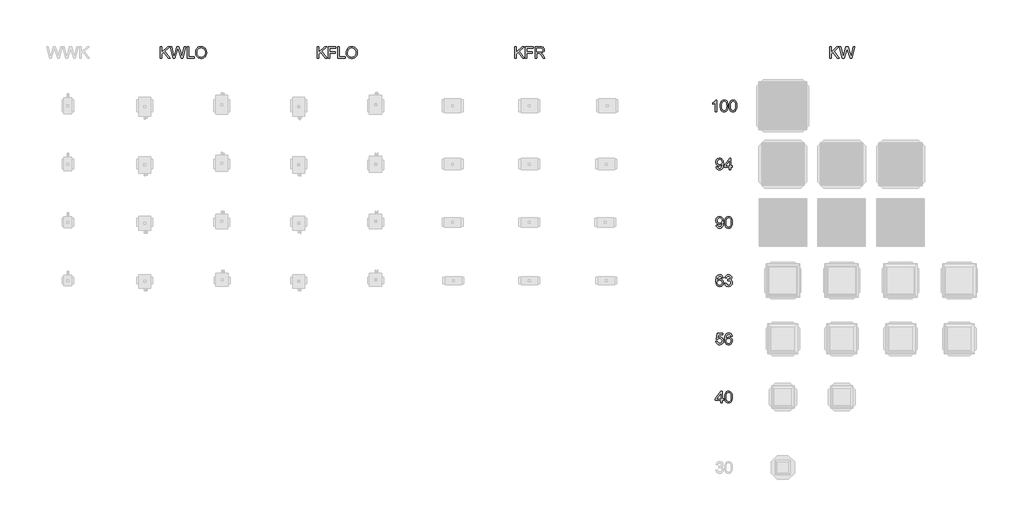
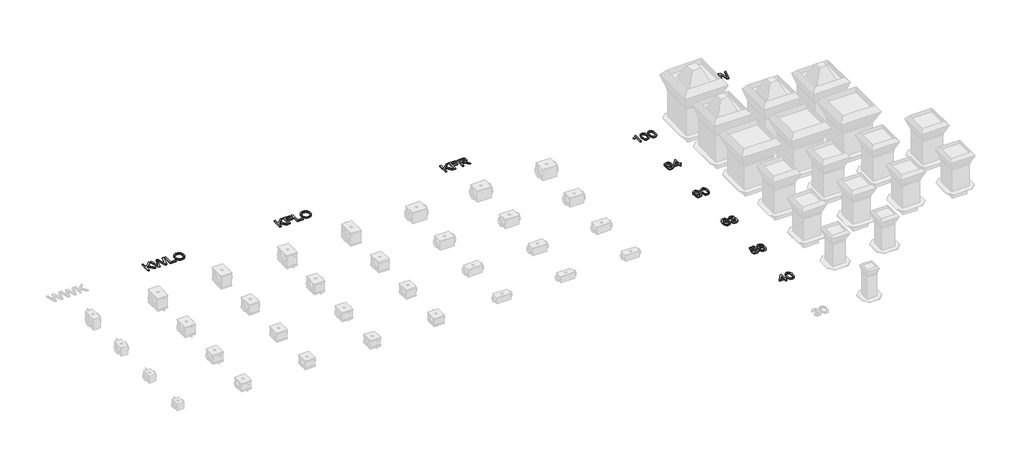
# One storey, part 9 of 9: 10 proxies.
"""IFC4 building model written with IfcOpenShell, lengths in millimetres."""

from ifc_helpers import new_model, si_unit, origin, origin_with_axes, place, context, project, spatial, polyline, outline, extrude, element, save

model = new_model("IFC4")

# Units and contexts
model_context = context("Model", 3, world=origin())
ifc_project = project(units=[si_unit("LENGTHUNIT", "METRE", prefix="MILLI")], contexts=[model_context])

# Site, building, storey
site = spatial("IfcSite", under=ifc_project)
building = spatial("IfcBuilding", under=site)
storey = spatial("IfcBuildingStorey", under=building, Name="KORF_Уровень 1", Elevation=0.0)

# Proxies
placement = place(None, origin())
element("IfcBuildingElementProxy", 1, Name="Текст модели 1", ObjectType="Текст модели 1", at=placement, inside=storey, context=model_context, shape_type="SweptSolid", body=[
    extrude(outline(polyline([(34380.0330848, 9570.718814), (34380.0330848, 9872.0877444), (34417.7042011, 9872.0877444), (34417.7042011, 9724.5670644), (34572.2146391, 9872.0877444), (34624.8953408, 9872.0877444), (34495.1801493, 9748.1850885), (34629.6042304, 9570.718814), (34583.5454046, 9570.718814), (34468.4719165, 9722.7276544), (34417.7042011, 9674.3143838), (34417.7042011, 9570.718814), (34380.0330848, 9570.718814)])), origin_with_axes(), (0.0, 0.0, 1.0), 30.0),
    extrude(outline(polyline([(34711.7890681, 9570.718814), (34629.6042304, 9872.0877444), (34668.4525691, 9872.0877444), (34716.1300756, 9674.0200782), (34730.8453554, 9612.8780906), (34746.5907048, 9666.9567439), (34806.3347409, 9872.0877444), (34862.3263805, 9872.0877444), (34905.7364559, 9723.389842), (34924.3328908, 9668.2075427), (34938.0364951, 9612.8780906), (34952.3103165, 9672.2542447), (35000.4292815, 9872.0877444), (35039.2776202, 9872.0877444), (34957.0192061, 9570.718814), (34916.7729158, 9570.718814), (34844.520892, 9803.2202349), (34834.4409253, 9835.6674269), (34823.1101598, 9796.598359), (34757.2592827, 9570.718814), (34711.7890681, 9570.718814)])), origin_with_axes(), (0.0, 0.0, 1.0), 30.0),
])
element("IfcBuildingElementProxy", 2, Name="Текст модели 1", ObjectType="Текст модели 1", at=placement, inside=storey, context=model_context, shape_type="SweptSolid", body=[
    extrude(outline(polyline([(31450.9638955, 8185.3913478), (31413.2927791, 8185.3913478), (31413.2927791, 8420.2472135), (31377.6082256, 8394.8265676), (31337.9505465, 8375.8070685), (31337.9505465, 8411.4180456), (31367.537456, 8427.5128829), (31393.169634, 8446.6611408), (31413.3755526, 8467.0234092), (31426.6836838, 8486.7602782), (31450.9638955, 8486.7602782), (31450.9638955, 8185.3913478)])), origin_with_axes(), (0.0, 0.0, 1.0), 30.0),
    extrude(outline(polyline([(31540.4327967, 8333.6477918), (31543.2011087, 8381.8863185), (31551.5060447, 8420.3575781), (31565.2648314, 8449.650182), (31584.3946951, 8470.3527412), (31609.0335917, 8482.658394), (31639.319477, 8486.7602782), (31662.5328309, 8484.3322571), (31683.3181636, 8477.0481936), (31700.7005879, 8465.1931963), (31713.7052164, 8449.0523737), (31723.5276657, 8428.7636817), (31731.3635522, 8404.4650759), (31736.495506, 8373.6089736), (31738.2061573, 8333.6477918), (31735.4654364, 8285.6851767), (31727.2432738, 8247.3058876), (31713.5672607, 8217.9856926), (31694.4649881, 8197.2003598), (31669.7709091, 8184.8119336), (31639.319477, 8180.6824582), (31618.5709325, 8182.475883), (31600.1768327, 8187.8561572), (31584.1371777, 8196.8232808), (31570.4519675, 8209.3772539), (31557.3185803, 8232.0709744), (31547.9375894, 8260.3473043), (31542.3089949, 8294.2062434), (31540.4327967, 8333.6477918)]), holes=[polyline([(31578.103913, 8333.7213682), (31582.5184969, 8274.4647759), (31588.0367269, 8254.1967772), (31595.7622488, 8240.1689769), (31615.4807237, 8223.8074251), (31639.319477, 8218.3535746), (31663.1582303, 8223.8258192), (31682.8767052, 8240.2425533), (31690.6022271, 8254.2933462), (31696.120457, 8274.5567464), (31700.535041, 8333.7213682), (31696.2676098, 8391.6443884), (31690.9333209, 8411.8457084), (31683.4653164, 8426.2069018), (31663.7836297, 8443.3685969), (31638.8780186, 8449.0891619), (31615.2967827, 8444.0491786), (31596.3508599, 8428.9292286), (31588.3678206, 8413.2942438), (31582.6656497, 8392.2146055), (31578.103913, 8333.7213682)])]), origin_with_axes(), (0.0, 0.0, 1.0), 30.0),
    extrude(outline(polyline([(31771.1683841, 8333.6477918), (31773.9366961, 8381.8863185), (31782.2416321, 8420.3575781), (31796.0004187, 8449.650182), (31815.1302825, 8470.3527412), (31839.7691791, 8482.658394), (31870.0550644, 8486.7602782), (31893.2684183, 8484.3322571), (31914.053751, 8477.0481936), (31931.4361753, 8465.1931963), (31944.4408038, 8449.0523737), (31954.2632531, 8428.7636817), (31962.0991395, 8404.4650759), (31967.2310934, 8373.6089736), (31968.9417447, 8333.6477918), (31966.2010238, 8285.6851767), (31957.9788612, 8247.3058876), (31944.302848, 8217.9856926), (31925.2005754, 8197.2003598), (31900.5064965, 8184.8119336), (31870.0550644, 8180.6824582), (31849.3065198, 8182.475883), (31830.9124201, 8187.8561572), (31814.8727651, 8196.8232808), (31801.1875549, 8209.3772539), (31788.0541676, 8232.0709744), (31778.6731768, 8260.3473043), (31773.0445822, 8294.2062434), (31771.1683841, 8333.6477918)]), holes=[polyline([(31808.8395004, 8333.7213682), (31813.2540843, 8274.4647759), (31818.7723142, 8254.1967772), (31826.4978361, 8240.1689769), (31846.2163111, 8223.8074251), (31870.0550644, 8218.3535746), (31893.8938176, 8223.8258192), (31913.6122926, 8240.2425533), (31921.3378145, 8254.2933462), (31926.8560444, 8274.5567464), (31931.2706284, 8333.7213682), (31927.0031972, 8391.6443884), (31921.6689083, 8411.8457084), (31914.2009038, 8426.2069018), (31894.519217, 8443.3685969), (31869.613606, 8449.0891619), (31846.0323701, 8444.0491786), (31827.0864473, 8428.9292286), (31819.103408, 8413.2942438), (31813.4012371, 8392.2146055), (31808.8395004, 8333.7213682)])]), origin_with_axes(), (0.0, 0.0, 1.0), 30.0),
])
element("IfcBuildingElementProxy", 3, Name="Текст модели 1", ObjectType="Текст модели 1", at=placement, inside=storey, context=model_context, shape_type="SweptSolid", body=[
    extrude(outline(polyline([(31429.7738925, 6746.7527729), (31467.4450088, 6751.4616624), (31473.8829438, 6730.0785215), (31484.3675806, 6715.5195915), (31498.641402, 6707.1594732), (31516.4468906, 6704.3727671), (31532.4221662, 6706.1661918), (31546.944308, 6711.546466), (31559.0108374, 6719.9249784), (31567.6192761, 6730.7131179), (31579.943323, 6763.4546155), (31585.3879765, 6807.1589965), (31585.1672473, 6814.5166364), (31572.1166335, 6798.587346), (31555.0377119, 6785.9689936), (31535.1628871, 6777.746831), (31513.7245638, 6775.0061101), (31495.829404, 6776.6799732), (31479.3735825, 6781.7015624), (31464.3570993, 6790.0708778), (31450.7799545, 6801.7879194), (31439.5296632, 6816.2410833), (31431.4937409, 6832.8187657), (31426.6721875, 6851.5209666), (31425.065003, 6872.347686), (31426.7503624, 6893.8687828), (31431.8064406, 6913.1825875), (31440.2332375, 6930.2891003), (31452.0307532, 6945.1883211), (31466.3666547, 6957.2594491), (31482.408609, 6965.8816833), (31500.156616, 6971.0550239), (31519.6106758, 6972.7794707), (31547.7076631, 6968.8431334), (31573.2846588, 6957.0341213), (31594.6769969, 6937.9410458), (31610.2200112, 6912.1525179), (31619.6837755, 6876.5047526), (31622.8383636, 6827.8339646), (31619.6929725, 6776.2293178), (31610.2567994, 6736.3417124), (31594.6126175, 6706.3685269), (31572.8432005, 6684.5071393), (31545.8866473, 6671.1530229), (31514.681057, 6666.7016507), (31482.4729883, 6671.9531662), (31456.776431, 6687.7077127), (31438.8053955, 6712.9720087), (31429.7738925, 6746.7527729)]), holes=[polyline([(31585.1672473, 6873.2306028), (31581.1021512, 6898.7616133), (31568.9068631, 6918.4065118), (31549.9793345, 6930.9328938), (31525.7175169, 6935.1083544), (31500.5543884, 6930.610997), (31480.3944551, 6917.1189249), (31467.1507032, 6896.4715479), (31462.7361193, 6870.5082761), (31466.9115799, 6847.2305428), (31479.4379619, 6828.7536696), (31499.1012545, 6816.6963372), (31524.6874473, 6812.6772264), (31548.7561268, 6816.6963372), (31568.1343109, 6828.7536696), (31580.9090132, 6847.9111245), (31585.1672473, 6873.2306028)])]), origin_with_axes(), (0.0, 0.0, 1.0), 30.0),
    extrude(outline(polyline([(31778.2317184, 6671.4105403), (31778.2317184, 6742.0438834), (31641.6739218, 6742.0438834), (31641.6739218, 6779.7149997), (31787.6494974, 6968.0705812), (31815.9028347, 6968.0705812), (31815.9028347, 6779.7149997), (31853.573951, 6779.7149997), (31853.573951, 6742.0438834), (31815.9028347, 6742.0438834), (31815.9028347, 6671.4105403), (31778.2317184, 6671.4105403)]), holes=[polyline([(31778.2317184, 6779.7149997), (31778.2317184, 6896.1128629), (31688.0270531, 6779.7149997), (31778.2317184, 6779.7149997)])]), origin_with_axes(), (0.0, 0.0, 1.0), 30.0),
])
element("IfcBuildingElementProxy", 4, Name="Текст модели 1", ObjectType="Текст модели 1", at=placement, inside=storey, context=model_context, shape_type="SweptSolid", body=[
    extrude(outline(polyline([(31429.7738925, 5232.7719654), (31467.4450088, 5237.4808549), (31473.8829438, 5216.097714), (31484.3675806, 5201.538784), (31498.641402, 5193.1786657), (31516.4468906, 5190.3919596), (31532.4221662, 5192.1853843), (31546.944308, 5197.5656585), (31559.0108374, 5205.9441709), (31567.6192761, 5216.7323104), (31579.943323, 5249.473808), (31585.3879765, 5293.178189), (31585.1672473, 5300.5358289), (31572.1166335, 5284.6065385), (31555.0377119, 5271.9881861), (31535.1628871, 5263.7660235), (31513.7245638, 5261.0253026), (31495.829404, 5262.6991657), (31479.3735825, 5267.7207549), (31464.3570993, 5276.0900703), (31450.7799545, 5287.8071119), (31439.5296632, 5302.2602758), (31431.4937409, 5318.8379582), (31426.6721875, 5337.5401591), (31425.065003, 5358.3668785), (31426.7503624, 5379.8879753), (31431.8064406, 5399.20178), (31440.2332375, 5416.3082928), (31452.0307532, 5431.2075136), (31466.3666547, 5443.2786416), (31482.408609, 5451.9008758), (31500.156616, 5457.0742164), (31519.6106758, 5458.7986632), (31547.7076631, 5454.8623259), (31573.2846588, 5443.0533138), (31594.6769969, 5423.9602383), (31610.2200112, 5398.1717104), (31619.6837755, 5362.5239451), (31622.8383636, 5313.8531571), (31619.6929725, 5262.2485103), (31610.2567994, 5222.3609049), (31594.6126175, 5192.3877194), (31572.8432005, 5170.5263318), (31545.8866473, 5157.1722154), (31514.681057, 5152.7208432), (31482.4729883, 5157.9723587), (31456.776431, 5173.7269052), (31438.8053955, 5198.9912012), (31429.7738925, 5232.7719654)]), holes=[polyline([(31585.1672473, 5359.2497953), (31581.1021512, 5384.7808058), (31568.9068631, 5404.4257043), (31549.9793345, 5416.9520863), (31525.7175169, 5421.1275469), (31500.5543884, 5416.6301895), (31480.3944551, 5403.1381174), (31467.1507032, 5382.4907404), (31462.7361193, 5356.5274686), (31466.9115799, 5333.2497353), (31479.4379619, 5314.7728621), (31499.1012545, 5302.7155297), (31524.6874473, 5298.6964189), (31548.7561268, 5302.7155297), (31568.1343109, 5314.7728621), (31580.9090132, 5333.930317), (31585.1672473, 5359.2497953)])]), origin_with_axes(), (0.0, 0.0, 1.0), 30.0),
    extrude(outline(polyline([(31655.8005904, 5305.6861768), (31658.5689024, 5353.9247035), (31666.8738384, 5392.3959631), (31680.632625, 5421.688567), (31699.7624888, 5442.3911262), (31724.4013854, 5454.696779), (31754.6872707, 5458.7986632), (31777.9006246, 5456.3706421), (31798.6859573, 5449.0865786), (31816.0683816, 5437.2315813), (31829.0730101, 5421.0907587), (31838.8954594, 5400.8020667), (31846.7313459, 5376.5034609), (31851.8632997, 5345.6473586), (31853.573951, 5305.6861768), (31850.8332301, 5257.7235617), (31842.6110675, 5219.3442726), (31828.9350543, 5190.0240776), (31809.8327817, 5169.2387448), (31785.1387028, 5156.8503186), (31754.6872707, 5152.7208432), (31733.9387261, 5154.514268), (31715.5446264, 5159.8945422), (31699.5049714, 5168.8616658), (31685.8197612, 5181.4156389), (31672.6863739, 5204.1093594), (31663.3053831, 5232.3856893), (31657.6767885, 5266.2446284), (31655.8005904, 5305.6861768)]), holes=[polyline([(31693.4717067, 5305.7597532), (31697.8862906, 5246.5031609), (31703.4045205, 5226.2351622), (31711.1300424, 5212.2073619), (31730.8485174, 5195.8458101), (31754.6872707, 5190.3919596), (31778.526024, 5195.8642042), (31798.2444989, 5212.2809383), (31805.9700208, 5226.3317312), (31811.4882507, 5246.5951314), (31815.9028347, 5305.7597532), (31811.6354035, 5363.6827734), (31806.3011146, 5383.8840934), (31798.8331101, 5398.2452868), (31779.1514233, 5415.4069819), (31754.2458123, 5421.1275469), (31730.6645764, 5416.0875636), (31711.7186536, 5400.9676136), (31703.7356143, 5385.3326288), (31698.0334434, 5364.2529905), (31693.4717067, 5305.7597532)])]), origin_with_axes(), (0.0, 0.0, 1.0), 30.0),
])
element("IfcBuildingElementProxy", 5, Name="Текст модели 1", ObjectType="Текст модели 1", at=placement, inside=storey, context=model_context, shape_type="SweptSolid", body=[
    extrude(outline(polyline([(31618.1294741, 3864.7667336), (31580.4583578, 3860.057844), (31574.3883048, 3878.7278553), (31566.1845363, 3891.4749664), (31549.0964177, 3903.2287962), (31528.4398436, 3907.1467394), (31510.9286607, 3904.8658711), (31494.4475473, 3898.0232659), (31480.2932875, 3883.6114888), (31468.7325958, 3863.7734522), (31460.9243005, 3835.713253), (31458.0272298, 3796.6349881), (31473.1379827, 3814.2657327), (31491.2469739, 3826.6909471), (31511.3425279, 3834.057784), (31532.4129692, 3836.5133964), (31550.5127633, 3834.8349347), (31567.2146059, 3829.7995499), (31582.5184969, 3821.4072419), (31596.4244363, 3809.6580107), (31607.9805295, 3795.2508321), (31616.2348818, 3778.8846818), (31621.1874931, 3760.5595599), (31622.8383636, 3740.2754664), (31619.7297607, 3713.3005191), (31610.4039522, 3688.2937405), (31595.6334901, 3667.0853435), (31576.1909266, 3651.505541), (31552.9591786, 3641.9314121), (31526.8211629, 3638.7400357), (31504.3642663, 3640.8553572), (31484.0824721, 3647.2013216), (31465.9757801, 3657.777929), (31450.0441905, 3672.5851793), (31437.0556568, 3692.2484719), (31427.7781327, 3717.3932063), (31422.2116183, 3748.0193824), (31420.3561135, 3784.1270002), (31422.4162526, 3824.6078153), (31428.5966701, 3859.1565332), (31438.897366, 3887.7731539), (31453.3183402, 3910.4576774), (31468.9487265, 3925.4902554), (31487.0715133, 3936.2278111), (31507.6867006, 3942.6703446), (31530.7942884, 3944.8178557), (31563.8484857, 3939.5019609), (31590.3175952, 3923.5542764), (31608.8588478, 3898.225601), (31618.1294741, 3864.7667336)]), holes=[polyline([(31458.0272298, 3740.8640776), (31460.2069306, 3724.1714321), (31466.746033, 3708.2329446), (31476.8995761, 3694.5293403), (31489.9225987, 3684.5413441), (31505.640357, 3678.4437001), (31523.8781069, 3676.4111521), (31548.7377327, 3680.6234009), (31568.2814637, 3693.2601474), (31580.9458014, 3713.1257752), (31585.1672473, 3739.0246676), (31581.0009837, 3763.8842935), (31568.5021929, 3782.8394133), (31548.6273681, 3794.8415633), (31522.3330025, 3798.84228), (31497.5101649, 3794.8415633), (31476.7524233, 3782.8394133), (31462.7085281, 3764.3441459), (31458.0272298, 3740.8640776)])]), origin_with_axes(), (0.0, 0.0, 1.0), 30.0),
    extrude(outline(polyline([(31655.8005904, 3723.5000474), (31693.4717067, 3728.208937), (31701.9054014, 3704.5357306), (31714.2570394, 3688.5512579), (31731.1336259, 3679.4461785), (31753.1421663, 3676.4111521), (31778.9674824, 3680.5866127), (31798.9066865, 3693.1129946), (31811.6537976, 3711.8014), (31815.9028347, 3734.4629309), (31811.6905858, 3755.9748306), (31799.0538393, 3773.4216342), (31779.9239755, 3784.9823259), (31756.232375, 3788.8358898), (31729.8184478, 3784.7156114), (31734.0123025, 3822.3867277), (31740.0455673, 3821.9452693), (31762.6151277, 3824.649202), (31782.7934551, 3832.761), (31797.0304883, 3846.4829984), (31801.7761661, 3866.0175324), (31798.3364694, 3882.2871136), (31788.0173794, 3895.4848802), (31772.27203, 3904.2312746), (31752.5535551, 3907.1467394), (31732.798292, 3904.2036835), (31716.6482724, 3895.3745156), (31704.8576544, 3880.6592358), (31698.1805962, 3860.057844), (31660.5094799, 3864.7667336), (31671.6011221, 3898.593483), (31691.3379911, 3923.848582), (31718.3405295, 3939.5755373), (31751.2291799, 3944.8178557), (31774.9115834, 3942.2334847), (31796.6626063, 3934.4803717), (31815.0015238, 3922.2482953), (31828.4476107, 3906.2270344), (31836.6973644, 3887.7685553), (31839.4472824, 3868.2248243), (31836.8353202, 3850.0146656), (31828.9994337, 3833.496764), (31816.0499875, 3819.4252777), (31798.0973461, 3808.5543647), (31821.678582, 3799.026221), (31839.1529768, 3782.8026251), (31849.9687074, 3760.7664935), (31853.573951, 3733.8007433), (31851.7713292, 3714.6892736), (31846.3634639, 3697.0861202), (31837.350355, 3680.9912829), (31824.7320026, 3666.4047618), (31809.3591337, 3654.3014441), (31792.0824755, 3645.6562173), (31772.902028, 3640.4690811), (31751.8177911, 3638.7400357), (31732.7615038, 3640.2161623), (31715.3974736, 3644.6445418), (31699.7257006, 3652.0251743), (31685.7461848, 3662.3580598), (31674.0245447, 3675.0361931), (31665.1263989, 3689.4525688), (31659.0517475, 3705.6071869), (31655.8005904, 3723.5000474)])), origin_with_axes(), (0.0, 0.0, 1.0), 30.0),
])
element("IfcBuildingElementProxy", 6, Name="Текст модели 1", ObjectType="Текст модели 1", at=placement, inside=storey, context=model_context, shape_type="SweptSolid", body=[
    extrude(outline(polyline([(31425.065003, 2209.5192399), (31462.7361193, 2214.2281295), (31469.6523008, 2191.6125838), (31481.7188302, 2175.416579), (31498.8805253, 2165.6769032), (31521.0822037, 2162.4303446), (31548.0847422, 2166.946096), (31568.3182519, 2180.4933505), (31580.9549984, 2201.5086095), (31585.1672473, 2228.4283745), (31581.2217129, 2253.775444), (31569.3851097, 2273.1628251), (31549.5654672, 2285.4684778), (31521.6708149, 2289.5703621), (31503.3962768, 2287.9332872), (31488.5982236, 2283.0220626), (31467.4450088, 2266.0259144), (31429.7738925, 2270.7348039), (31462.7361193, 2426.1281587), (31608.711695, 2426.1281587), (31608.711695, 2388.4570424), (31493.1967485, 2388.4570424), (31477.0835171, 2305.4628643), (31503.9940851, 2321.7968249), (31532.19224, 2327.2414784), (31550.5380552, 2325.5538197), (31567.3893499, 2320.4908438), (31582.7461239, 2312.0525505), (31596.6083773, 2300.2389399), (31608.0839963, 2285.7719805), (31616.280867, 2269.3736405), (31621.1989895, 2251.0439201), (31622.8383636, 2230.7828193), (31616.9338576, 2193.1117029), (31609.553225, 2176.3178899), (31599.2203395, 2160.8852402), (31583.5669606, 2145.08011), (31565.3016196, 2133.7907312), (31544.4243163, 2127.017104), (31520.9350509, 2124.7592282), (31483.9353193, 2130.5625667), (31468.2566485, 2137.8167398), (31454.4587744, 2147.9725821), (31442.9785569, 2160.524256), (31434.2528558, 2174.9659235), (31425.065003, 2209.5192399)])), origin_with_axes(), (0.0, 0.0, 1.0), 30.0),
    extrude(outline(polyline([(31848.8650614, 2350.7859261), (31811.1939451, 2346.0770365), (31805.1238922, 2364.7470478), (31796.9201237, 2377.4941589), (31779.832005, 2389.2479887), (31759.175431, 2393.1659319), (31741.664248, 2390.8850636), (31725.1831347, 2384.0424584), (31711.0288749, 2369.6306813), (31699.4681832, 2349.7926447), (31691.6598878, 2321.7324455), (31688.7628171, 2282.6541806), (31703.8735701, 2300.2849252), (31721.9825613, 2312.7101396), (31742.0781153, 2320.0769765), (31763.1485566, 2322.5325889), (31781.2483507, 2320.8541272), (31797.9501933, 2315.8187424), (31813.2540843, 2307.4264344), (31827.1600237, 2295.6772032), (31838.7161169, 2281.2700246), (31846.9704692, 2264.9038743), (31851.9230805, 2246.5787524), (31853.573951, 2226.2946589), (31850.4653481, 2199.3197116), (31841.1395395, 2174.312933), (31826.3690774, 2153.104536), (31806.926514, 2137.5247335), (31783.694766, 2127.9506046), (31757.5567502, 2124.7592282), (31735.0998537, 2126.8745497), (31714.8180594, 2133.2205141), (31696.7113675, 2143.7971215), (31680.7797778, 2158.6043718), (31667.7912441, 2178.2676644), (31658.5137201, 2203.4123988), (31652.9472056, 2234.0385749), (31651.0917008, 2270.1461927), (31653.15184, 2310.6270078), (31659.3322575, 2345.1757257), (31669.6329534, 2373.7923464), (31684.0539276, 2396.4768699), (31699.6843139, 2411.5094479), (31717.8071007, 2422.2470036), (31738.422288, 2428.6895371), (31761.5298758, 2430.8370482), (31794.584073, 2425.5211534), (31821.0531826, 2409.5734689), (31839.5944352, 2384.2447935), (31848.8650614, 2350.7859261)]), holes=[polyline([(31688.7628171, 2226.8832701), (31690.942518, 2210.1906246), (31697.4816204, 2194.2521371), (31707.6351635, 2180.5485328), (31720.6581861, 2170.5605366), (31736.3759444, 2164.4628926), (31754.6136943, 2162.4303446), (31779.4733201, 2166.6425934), (31799.0170511, 2179.2793399), (31811.6813888, 2199.1449677), (31815.9028347, 2225.0438601), (31811.7365711, 2249.903486), (31799.2377803, 2268.8586058), (31779.3629555, 2280.8607558), (31753.0685899, 2284.8614725), (31728.2457523, 2280.8607558), (31707.4880107, 2268.8586058), (31693.4441155, 2250.3633384), (31688.7628171, 2226.8832701)])]), origin_with_axes(), (0.0, 0.0, 1.0), 30.0),
])
element("IfcBuildingElementProxy", 7, Name="Текст модели 1", ObjectType="Текст модели 1", at=placement, inside=storey, context=model_context, shape_type="SweptSolid", body=[
    extrude(outline(polyline([(31547.496131, 615.4873103), (31547.496131, 686.1206534), (31410.9383344, 686.1206534), (31410.9383344, 723.7917697), (31556.9139101, 912.1473512), (31585.1672473, 912.1473512), (31585.1672473, 723.7917697), (31622.8383636, 723.7917697), (31622.8383636, 686.1206534), (31585.1672473, 686.1206534), (31585.1672473, 615.4873103), (31547.496131, 615.4873103)]), holes=[polyline([(31547.496131, 723.7917697), (31547.496131, 840.1896329), (31457.2914658, 723.7917697), (31547.496131, 723.7917697)])]), origin_with_axes(), (0.0, 0.0, 1.0), 30.0),
    extrude(outline(polyline([(31655.8005904, 763.7437543), (31658.5689024, 811.982281), (31666.8738384, 850.4535406), (31680.632625, 879.7461445), (31699.7624888, 900.4487037), (31724.4013854, 912.7543565), (31754.6872707, 916.8562407), (31777.9006246, 914.4282196), (31798.6859573, 907.1441561), (31816.0683816, 895.2891588), (31829.0730101, 879.1483362), (31838.8954594, 858.8596442), (31846.7313459, 834.5610384), (31851.8632997, 803.7049361), (31853.573951, 763.7437543), (31850.8332301, 715.7811392), (31842.6110675, 677.4018501), (31828.9350543, 648.0816551), (31809.8327817, 627.2963223), (31785.1387028, 614.9078961), (31754.6872707, 610.7784207), (31733.9387261, 612.5718455), (31715.5446264, 617.9521197), (31699.5049714, 626.9192433), (31685.8197612, 639.4732164), (31672.6863739, 662.1669369), (31663.3053831, 690.4432668), (31657.6767885, 724.3022059), (31655.8005904, 763.7437543)]), holes=[polyline([(31693.4717067, 763.8173307), (31697.8862906, 704.5607384), (31703.4045205, 684.2927397), (31711.1300424, 670.2649394), (31730.8485174, 653.9033876), (31754.6872707, 648.4495371), (31778.526024, 653.9217817), (31798.2444989, 670.3385158), (31805.9700208, 684.3893087), (31811.4882507, 704.6527089), (31815.9028347, 763.8173307), (31811.6354035, 821.7403509), (31806.3011146, 841.9416709), (31798.8331101, 856.3028643), (31779.1514233, 873.4645594), (31754.2458123, 879.1851244), (31730.6645764, 874.1451411), (31711.7186536, 859.0251911), (31703.7356143, 843.3902063), (31698.0334434, 822.310568), (31693.4717067, 763.8173307)])]), origin_with_axes(), (0.0, 0.0, 1.0), 30.0),
])
element("IfcBuildingElementProxy", 8, Name="Текст модели 1", ObjectType="Текст модели 1", at=placement, inside=storey, context=model_context, shape_type="SweptSolid", body=[
    extrude(outline(polyline([(26194.6268832, 9570.718814), (26194.6268832, 9872.0877444), (26232.2979995, 9872.0877444), (26232.2979995, 9724.5670644), (26386.8084374, 9872.0877444), (26439.4891391, 9872.0877444), (26309.7739476, 9748.1850885), (26444.1980287, 9570.718814), (26398.1392029, 9570.718814), (26283.0657148, 9722.7276544), (26232.2979995, 9674.3143838), (26232.2979995, 9570.718814), (26194.6268832, 9570.718814)])), origin_with_axes(), (0.0, 0.0, 1.0), 30.0),
    extrude(outline(polyline([(26472.4513659, 9570.718814), (26472.4513659, 9872.0877444), (26674.9336161, 9872.0877444), (26674.9336161, 9834.4166281), (26510.1224822, 9834.4166281), (26510.1224822, 9744.9477269), (26651.3891684, 9744.9477269), (26651.3891684, 9707.2766106), (26510.1224822, 9707.2766106), (26510.1224822, 9570.718814), (26472.4513659, 9570.718814)])), origin_with_axes(), (0.0, 0.0, 1.0), 30.0),
    extrude(outline(polyline([(26726.731401, 9570.718814), (26726.731401, 9872.0877444), (26856.5937453, 9872.0877444), (26891.4965496, 9870.0551964), (26916.8896043, 9863.9575523), (26935.4492509, 9852.7003633), (26949.8518311, 9835.1891803), (26959.0948662, 9813.4749456), (26962.1758779, 9789.6086011), (26957.0715152, 9759.9205241), (26941.7584272, 9735.3092186), (26930.158648, 9725.2798357), (26915.7767612, 9717.2646068), (26878.666665, 9707.2766106), (26900.0773971, 9691.1633792), (26930.6116027, 9652.3886169), (26980.8642832, 9570.718814), (26937.0863258, 9570.718814), (26897.8701051, 9633.1851768), (26869.5431915, 9674.535113), (26849.6407756, 9694.069647), (26831.7249224, 9701.2433459), (26809.8727319, 9702.5677211), (26764.4025173, 9702.5677211), (26764.4025173, 9570.718814), (26726.731401, 9570.718814)]), holes=[polyline([(26764.4025173, 9740.2388374), (26848.7210706, 9740.2388374), (26872.9369029, 9741.5724096), (26891.7264758, 9745.5731263), (26905.8715385, 9752.5077019), (26916.1538403, 9762.6428509), (26922.4170313, 9774.9025184), (26924.5047616, 9788.2106495), (26920.522439, 9806.5863552), (26908.5754712, 9821.3936055), (26888.0200647, 9831.1608725), (26858.2124261, 9834.4166281), (26764.4025173, 9834.4166281), (26764.4025173, 9740.2388374)])]), origin_with_axes(), (0.0, 0.0, 1.0), 30.0),
])
element("IfcBuildingElementProxy", 9, Name="Текст модели 1", ObjectType="Текст модели 1", at=placement, inside=storey, context=model_context, shape_type="SweptSolid", body=[
    extrude(outline(polyline([(21067.3729775, 9570.718814), (21067.3729775, 9872.0877444), (21105.0440938, 9872.0877444), (21105.0440938, 9724.5670644), (21259.5545318, 9872.0877444), (21312.2352335, 9872.0877444), (21182.520042, 9748.1850885), (21316.9441231, 9570.718814), (21270.8852973, 9570.718814), (21155.8118092, 9722.7276544), (21105.0440938, 9674.3143838), (21105.0440938, 9570.718814), (21067.3729775, 9570.718814)])), origin_with_axes(), (0.0, 0.0, 1.0), 30.0),
    extrude(outline(polyline([(21345.1974603, 9570.718814), (21345.1974603, 9872.0877444), (21547.6797104, 9872.0877444), (21547.6797104, 9834.4166281), (21382.8685766, 9834.4166281), (21382.8685766, 9744.9477269), (21524.1352628, 9744.9477269), (21524.1352628, 9707.2766106), (21382.8685766, 9707.2766106), (21382.8685766, 9570.718814), (21345.1974603, 9570.718814)])), origin_with_axes(), (0.0, 0.0, 1.0), 30.0),
    extrude(outline(polyline([(21599.4774954, 9570.718814), (21599.4774954, 9872.0877444), (21637.1486117, 9872.0877444), (21637.1486117, 9608.3899303), (21787.8330769, 9608.3899303), (21787.8330769, 9570.718814), (21599.4774954, 9570.718814)])), origin_with_axes(), (0.0, 0.0, 1.0), 30.0),
    extrude(outline(polyline([(21816.0864141, 9717.4301537), (21818.5972087, 9752.7790149), (21826.1295926, 9784.0719771), (21838.6835657, 9811.3090403), (21856.259128, 9834.4902045), (21877.8032173, 9852.9992674), (21902.2627715, 9866.2200266), (21929.6377905, 9874.1524821), (21959.9282742, 9876.796634), (21999.4571946, 9871.830227), (22034.9026249, 9856.9310062), (22064.3331845, 9833.1474352), (22085.817493, 9801.5279778), (22098.9508802, 9763.5993441), (22103.328676, 9720.8882444), (22098.720954, 9677.6069277), (22084.897788, 9639.1448651), (22062.6225332, 9607.4702253), (22032.6585447, 9584.551177), (21997.5166171, 9570.6452376), (21959.707545, 9566.0099244), (21919.5716194, 9571.1326812), (21883.923854, 9586.5009516), (21854.5668708, 9610.725981), (21833.3032915, 9642.4190148), (21820.3906335, 9678.8853176), (21816.0864141, 9717.4301537)]), holes=[polyline([(21853.7575304, 9717.0622717), (21855.6406264, 9692.0876827), (21861.2899143, 9669.918194), (21870.7053941, 9650.5538055), (21883.8870658, 9633.9945172), (21899.910626, 9620.7323712), (21917.851771, 9611.2594099), (21937.710501, 9605.575633), (21959.4868158, 9603.6810408), (21981.6356112, 9605.5940271), (22001.7288659, 9611.3329863), (22019.76658, 9620.8979181), (22035.7487534, 9634.2888228), (22048.8338562, 9651.197599), (22058.1803581, 9671.3161456), (22063.7882593, 9694.6444626), (22065.6575597, 9721.18255), (22062.4569863, 9754.5310529), (22052.8552662, 9783.3546072), (22037.1007198, 9806.926646), (22015.4416673, 9824.5206025), (21989.3128486, 9835.4742889), (21960.1490034, 9839.1255177), (21939.1291459, 9837.3665819), (21919.6268017, 9832.0897745), (21901.6419706, 9823.2950956), (21885.1746528, 9810.982545), (21871.4296618, 9794.5589132), (21861.611811, 9773.4309904), (21855.7211006, 9747.5987765), (21853.7575304, 9717.0622717)])]), origin_with_axes(), (0.0, 0.0, 1.0), 30.0),
])
element("IfcBuildingElementProxy", 10, Name="Текст модели 1", ObjectType="Текст модели 1", at=placement, inside=storey, context=model_context, shape_type="SweptSolid", body=[
    extrude(outline(polyline([(16985.0812987, 9570.718814), (16985.0812987, 9872.0877444), (17022.752415, 9872.0877444), (17022.752415, 9724.5670644), (17177.262853, 9872.0877444), (17229.9435547, 9872.0877444), (17100.2283632, 9748.1850885), (17234.6524442, 9570.718814), (17188.5936184, 9570.718814), (17073.5201303, 9722.7276544), (17022.752415, 9674.3143838), (17022.752415, 9570.718814), (16985.0812987, 9570.718814)])), origin_with_axes(), (0.0, 0.0, 1.0), 30.0),
    extrude(outline(polyline([(17316.8372819, 9570.718814), (17234.6524442, 9872.0877444), (17273.5007829, 9872.0877444), (17321.1782895, 9674.0200782), (17335.8935693, 9612.8780906), (17351.6389187, 9666.9567439), (17411.3829547, 9872.0877444), (17467.3745944, 9872.0877444), (17510.7846698, 9723.389842), (17529.3811047, 9668.2075427), (17543.084709, 9612.8780906), (17557.3585304, 9672.2542447), (17605.4774954, 9872.0877444), (17644.3258341, 9872.0877444), (17562.0674199, 9570.718814), (17521.8211297, 9570.718814), (17449.5691058, 9803.2202349), (17439.4891391, 9835.6674269), (17428.1583737, 9796.598359), (17362.3074966, 9570.718814), (17316.8372819, 9570.718814)])), origin_with_axes(), (0.0, 0.0, 1.0), 30.0),
    extrude(outline(polyline([(17681.9969504, 9570.718814), (17681.9969504, 9872.0877444), (17719.6680667, 9872.0877444), (17719.6680667, 9608.3899303), (17870.3525319, 9608.3899303), (17870.3525319, 9570.718814), (17681.9969504, 9570.718814)])), origin_with_axes(), (0.0, 0.0, 1.0), 30.0),
    extrude(outline(polyline([(17898.6058691, 9717.4301537), (17901.1166637, 9752.7790149), (17908.6490476, 9784.0719771), (17921.2030207, 9811.3090403), (17938.778583, 9834.4902045), (17960.3226723, 9852.9992674), (17984.7822265, 9866.2200266), (18012.1572455, 9874.1524821), (18042.4477292, 9876.796634), (18081.9766496, 9871.830227), (18117.4220799, 9856.9310062), (18146.8526395, 9833.1474352), (18168.336948, 9801.5279778), (18181.4703352, 9763.5993441), (18185.848131, 9720.8882444), (18181.240409, 9677.6069277), (18167.417243, 9639.1448651), (18145.1419882, 9607.4702253), (18115.1779997, 9584.551177), (18080.0360721, 9570.6452376), (18042.227, 9566.0099244), (18002.0910744, 9571.1326812), (17966.443309, 9586.5009516), (17937.0863258, 9610.725981), (17915.8227465, 9642.4190148), (17902.9100885, 9678.8853176), (17898.6058691, 9717.4301537)]), holes=[polyline([(17936.2769854, 9717.0622717), (17938.1600814, 9692.0876827), (17943.8093693, 9669.918194), (17953.2248491, 9650.5538055), (17966.4065208, 9633.9945172), (17982.430081, 9620.7323712), (18000.371226, 9611.2594099), (18020.229956, 9605.575633), (18042.0062708, 9603.6810408), (18064.1550662, 9605.5940271), (18084.2483209, 9611.3329863), (18102.286035, 9620.8979181), (18118.2682084, 9634.2888228), (18131.3533112, 9651.197599), (18140.6998131, 9671.3161456), (18146.3077143, 9694.6444626), (18148.1770146, 9721.18255), (18144.9764413, 9754.5310529), (18135.3747212, 9783.3546072), (18119.6201748, 9806.926646), (18097.9611223, 9824.5206025), (18071.8323036, 9835.4742889), (18042.6684584, 9839.1255177), (18021.6486009, 9837.3665819), (18002.1462567, 9832.0897745), (17984.1614256, 9823.2950956), (17967.6941078, 9810.982545), (17953.9491168, 9794.5589132), (17944.131266, 9773.4309904), (17938.2405556, 9747.5987765), (17936.2769854, 9717.0622717)])]), origin_with_axes(), (0.0, 0.0, 1.0), 30.0),
])

save(model, "model.ifc")
